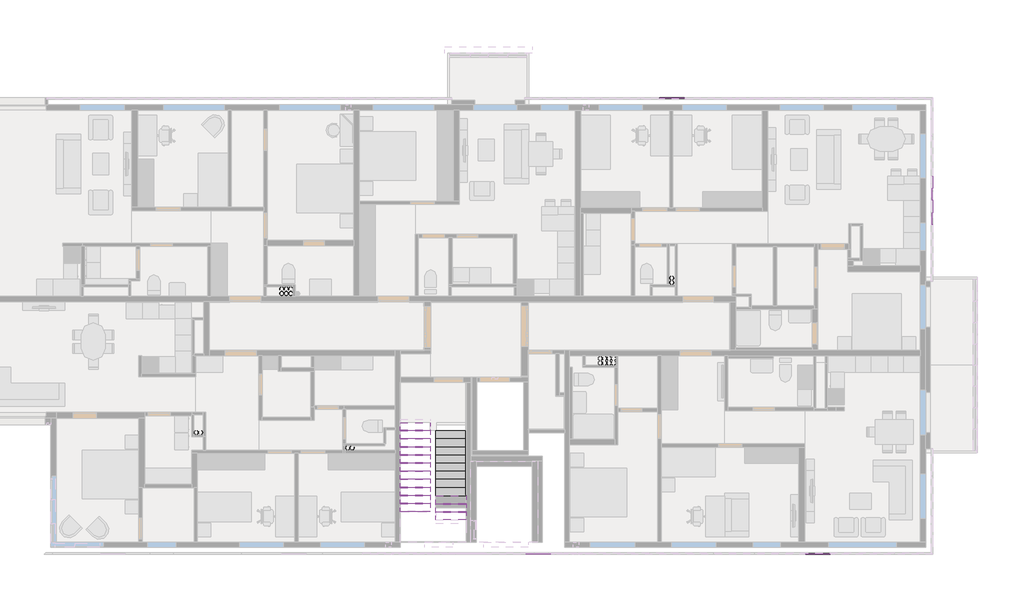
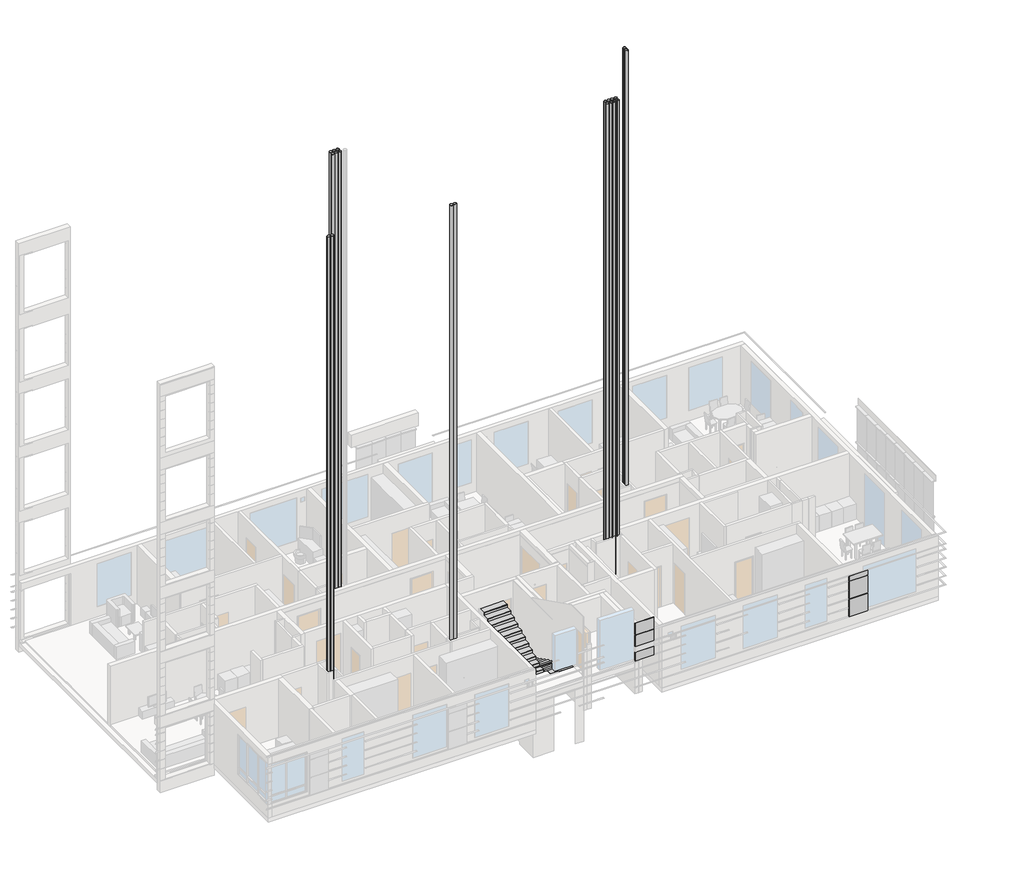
# One storey, part 14 of 14: 77 proxies.
"""IFC4 building model written with IfcOpenShell, lengths in millimetres."""

from ifc_helpers import new_model, si_unit, frame, origin, place, context, project, spatial, polyline, outline, extrude, transform, mapped, element, save
from components import generic_models_2374763e, generic_models_25d82840, generic_models_0ea3a2f0, generic_models_359d7c4d, generic_models_eb6f8b1a, generic_models_d5e938d4, generic_models_b2ea4c5b, generic_models_e5fd676e, d125_8ca146dc

model = new_model("IFC4")

# Units and contexts
model_context = context("Model", 3, world=origin())
ifc_project = project(units=[si_unit("LENGTHUNIT", "METRE", prefix="MILLI")], contexts=[model_context])

# Site, building, storey
site = spatial("IfcSite", under=ifc_project)
building = spatial("IfcBuilding", under=site)
storey = spatial("IfcBuildingStorey", under=building, Name="03_+7,700_Ж", Elevation=4500.0)

# Proxies
placement = place(None, origin())
element("IfcBuildingElementProxy", 1, Name="GM_Отделка : Ступень", ObjectType="GM_Отделка : Ступень", at=placement, inside=storey, context=model_context, shape_type="SweptSolid", body=[
    extrude(outline(polyline([(143230.0000002, 112419.9999987), (143230.0000002, 112719.9999987), (144350.0000002, 112719.9999987), (144350.0000002, 112419.9999987), (143230.0000002, 112419.9999987)])), frame((0.0, 0.0, 6120.0), z_axis=(0.0, 0.0, 1.0), x_axis=(1.0, 0.0, 0.0)), (0.0, 0.0, 1.0), 30.0),
])
element("IfcBuildingElementProxy", 2, Name="GM_Отделка : Ступень", ObjectType="GM_Отделка : Ступень", at=placement, inside=storey, context=model_context, shape_type="SweptSolid", body=[
    extrude(outline(polyline([(143030.0000001, 115719.9999987), (141910.0000001, 115719.9999987), (141910.0000001, 116019.9999987), (143019.9999999, 116019.9999987), (143019.9999999, 115749.9999989), (143030.0000001, 115749.9999989), (143030.0000001, 115719.9999987)])), frame((0.0, 0.0, 7770.0), z_axis=(0.0, 0.0, 1.0), x_axis=(1.0, 0.0, 0.0)), (0.0, 0.0, 1.0), 30.0),
])
generic_models_shape = generic_models_2374763e(model_context)
element("IfcBuildingElementProxy", 3, Name="GM_Панель фасадная : Тип 1", ObjectType="GM_Панель фасадная : Тип 1", at=placement, inside=storey, context=model_context, shape_type="MappedRepresentation", body=[
    mapped(generic_models_shape, transform((152305.0000001, 127924.9999987, 5065.0), x_axis=(1.0, 0.0, 0.0), y_axis=(0.0, 1.0, 0.0), z_axis=(0.0, 0.0, 1.0))),
])
element("IfcBuildingElementProxy", 4, Name="GM_Панель фасадная : Тип 1", ObjectType="GM_Панель фасадная : Тип 1", at=placement, inside=storey, context=model_context, shape_type="MappedRepresentation", body=[
    mapped(generic_models_shape, transform((152305.0000001, 127924.9999987, 5975.0), x_axis=(1.0, 0.0, 0.0), y_axis=(0.0, 1.0, 0.0), z_axis=(0.0, 0.0, 1.0))),
])
element("IfcBuildingElementProxy", 5, Name="GM_Панель фасадная : Тип 1", ObjectType="GM_Панель фасадная : Тип 1", at=placement, inside=storey, context=model_context, shape_type="MappedRepresentation", body=[
    mapped(generic_models_shape, transform((157055.0000001, 111274.9999987, 5065.0), x_axis=(-1.0, 0.0, 0.0), y_axis=(0.0, -1.0, 0.0), z_axis=(0.0, 0.0, 1.0))),
])
element("IfcBuildingElementProxy", 6, Name="GM_Панель фасадная : Тип 1", ObjectType="GM_Панель фасадная : Тип 1", at=placement, inside=storey, context=model_context, shape_type="MappedRepresentation", body=[
    mapped(generic_models_shape, transform((157055.0000001, 111274.9999987, 5975.0), x_axis=(-1.0, 0.0, 0.0), y_axis=(0.0, -1.0, 0.0), z_axis=(0.0, 0.0, 1.0))),
])
element("IfcBuildingElementProxy", 7, Name="GM_Панель фасадная : Тип 1", ObjectType="GM_Панель фасадная : Тип 1", at=placement, inside=storey, context=model_context, shape_type="MappedRepresentation", body=[
    mapped(generic_models_shape, transform((161505.0000001, 123474.9999987, 5975.0), x_axis=(0.0, -1.0, 0.0), y_axis=(1.0, 0.0, 0.0), z_axis=(0.0, 0.0, 1.0))),
])
element("IfcBuildingElementProxy", 8, Name="GM_Панель фасадная : Тип 1", ObjectType="GM_Панель фасадная : Тип 1", at=placement, inside=storey, context=model_context, shape_type="MappedRepresentation", body=[
    mapped(generic_models_shape, transform((161505.0000001, 124374.9999987, 5975.0), x_axis=(0.0, -1.0, 0.0), y_axis=(1.0, 0.0, 0.0), z_axis=(0.0, 0.0, 1.0))),
])
generic_models_2_shape = generic_models_25d82840(model_context)
element("IfcBuildingElementProxy", 9, Name="GM_Панель фасадная : Тип 1", ObjectType="GM_Панель фасадная : Тип 1", at=placement, inside=storey, context=model_context, shape_type="MappedRepresentation", body=[
    mapped(generic_models_2_shape, transform((152305.0000001, 127924.9999987, 6885.0), x_axis=(1.0, 0.0, 0.0), y_axis=(0.0, 1.0, 0.0), z_axis=(0.0, 0.0, 1.0))),
])
element("IfcBuildingElementProxy", 10, Name="GM_Панель фасадная : Тип 1", ObjectType="GM_Панель фасадная : Тип 1", at=placement, inside=storey, context=model_context, shape_type="MappedRepresentation", body=[
    mapped(generic_models_2_shape, transform((157055.0000001, 111274.9999987, 6885.0), x_axis=(-1.0, 0.0, 0.0), y_axis=(0.0, -1.0, 0.0), z_axis=(0.0, 0.0, 1.0))),
])
element("IfcBuildingElementProxy", 11, Name="GM_Панель фасадная : Тип 1", ObjectType="GM_Панель фасадная : Тип 1", at=placement, inside=storey, context=model_context, shape_type="MappedRepresentation", body=[
    mapped(generic_models_2_shape, transform((161505.0000001, 123474.9999987, 6885.0), x_axis=(0.0, -1.0, 0.0), y_axis=(1.0, 0.0, 0.0), z_axis=(0.0, 0.0, 1.0))),
])
element("IfcBuildingElementProxy", 12, Name="GM_Панель фасадная : Тип 1", ObjectType="GM_Панель фасадная : Тип 1", at=placement, inside=storey, context=model_context, shape_type="MappedRepresentation", body=[
    mapped(generic_models_2_shape, transform((161505.0000001, 124374.9999987, 6885.0), x_axis=(0.0, -1.0, 0.0), y_axis=(1.0, 0.0, 0.0), z_axis=(0.0, 0.0, 1.0))),
])
generic_models_3_shape = generic_models_0ea3a2f0(model_context)
element("IfcBuildingElementProxy", 13, Name="GM_Панель фасадная : Тип 1", ObjectType="GM_Панель фасадная : Тип 1", at=placement, inside=storey, context=model_context, shape_type="MappedRepresentation", body=[
    mapped(generic_models_3_shape, transform((146705.0000002, 111274.9999987, 6430.0), x_axis=(-1.0, 0.0, 0.0), y_axis=(0.0, -1.0, 0.0), z_axis=(0.0, 0.0, 1.0))),
])
generic_models_4_shape = generic_models_359d7c4d(model_context)
element("IfcBuildingElementProxy", 14, Name="GM_Панель фасадная : Тип 1", ObjectType="GM_Панель фасадная : Тип 1", at=placement, inside=storey, context=model_context, shape_type="MappedRepresentation", body=[
    mapped(generic_models_4_shape, transform((146705.0000002, 111274.9999987, 7155.0), x_axis=(-1.0, 0.0, 0.0), y_axis=(0.0, -1.0, 0.0), z_axis=(0.0, 0.0, 1.0))),
])
element("IfcBuildingElementProxy", 15, Name="GM_Панель фасадная : Тип 1", ObjectType="GM_Панель фасадная : Тип 1", at=placement, inside=storey, context=model_context, shape_type="MappedRepresentation", body=[
    mapped(generic_models_4_shape, transform((146705.0000002, 111274.9999987, 7760.0), x_axis=(-1.0, 0.0, 0.0), y_axis=(0.0, -1.0, 0.0), z_axis=(0.0, 0.0, 1.0))),
])
generic_models_5_shape = generic_models_eb6f8b1a(model_context)
element("IfcBuildingElementProxy", 16, Name="GM_Отделка : Подступенок", ObjectType="GM_Отделка : Подступенок", at=placement, inside=storey, context=model_context, shape_type="MappedRepresentation", body=[
    mapped(generic_models_5_shape, transform((144202.5000002, 115689.9999987, 4820.0), x_axis=(0.0, 0.0, 1.0), y_axis=(1.0, 0.0, 0.0), z_axis=(0.0, 1.0, 0.0))),
])
element("IfcBuildingElementProxy", 17, Name="GM_Отделка : Подступенок", ObjectType="GM_Отделка : Подступенок", at=placement, inside=storey, context=model_context, shape_type="MappedRepresentation", body=[
    mapped(generic_models_5_shape, transform((144202.5000002, 115389.9999987, 4970.0), x_axis=(0.0, 0.0, 1.0), y_axis=(1.0, 0.0, 0.0), z_axis=(0.0, 1.0, 0.0))),
])
element("IfcBuildingElementProxy", 18, Name="GM_Отделка : Подступенок", ObjectType="GM_Отделка : Подступенок", at=placement, inside=storey, context=model_context, shape_type="MappedRepresentation", body=[
    mapped(generic_models_5_shape, transform((144202.5000002, 115089.9999987, 5120.0), x_axis=(0.0, 0.0, 1.0), y_axis=(1.0, 0.0, 0.0), z_axis=(0.0, 1.0, 0.0))),
])
element("IfcBuildingElementProxy", 19, Name="GM_Отделка : Подступенок", ObjectType="GM_Отделка : Подступенок", at=placement, inside=storey, context=model_context, shape_type="MappedRepresentation", body=[
    mapped(generic_models_5_shape, transform((144202.5000002, 114789.9999987, 5270.0), x_axis=(0.0, 0.0, 1.0), y_axis=(1.0, 0.0, 0.0), z_axis=(0.0, 1.0, 0.0))),
])
element("IfcBuildingElementProxy", 20, Name="GM_Отделка : Подступенок", ObjectType="GM_Отделка : Подступенок", at=placement, inside=storey, context=model_context, shape_type="MappedRepresentation", body=[
    mapped(generic_models_5_shape, transform((144202.5000002, 114489.9999987, 5420.0), x_axis=(0.0, 0.0, 1.0), y_axis=(1.0, 0.0, 0.0), z_axis=(0.0, 1.0, 0.0))),
])
element("IfcBuildingElementProxy", 21, Name="GM_Отделка : Подступенок", ObjectType="GM_Отделка : Подступенок", at=placement, inside=storey, context=model_context, shape_type="MappedRepresentation", body=[
    mapped(generic_models_5_shape, transform((144202.5000002, 114189.9999987, 5570.0), x_axis=(0.0, 0.0, 1.0), y_axis=(1.0, 0.0, 0.0), z_axis=(0.0, 1.0, 0.0))),
])
element("IfcBuildingElementProxy", 22, Name="GM_Отделка : Подступенок", ObjectType="GM_Отделка : Подступенок", at=placement, inside=storey, context=model_context, shape_type="MappedRepresentation", body=[
    mapped(generic_models_5_shape, transform((144202.5000002, 113889.9999987, 5720.0), x_axis=(0.0, 0.0, 1.0), y_axis=(1.0, 0.0, 0.0), z_axis=(0.0, 1.0, 0.0))),
])
element("IfcBuildingElementProxy", 23, Name="GM_Отделка : Подступенок", ObjectType="GM_Отделка : Подступенок", at=placement, inside=storey, context=model_context, shape_type="MappedRepresentation", body=[
    mapped(generic_models_5_shape, transform((144202.5000002, 113589.9999987, 5870.0), x_axis=(0.0, 0.0, 1.0), y_axis=(1.0, 0.0, 0.0), z_axis=(0.0, 1.0, 0.0))),
])
element("IfcBuildingElementProxy", 24, Name="GM_Отделка : Подступенок", ObjectType="GM_Отделка : Подступенок", at=placement, inside=storey, context=model_context, shape_type="MappedRepresentation", body=[
    mapped(generic_models_5_shape, transform((144202.5000002, 113289.9999987, 6020.0), x_axis=(0.0, 0.0, 1.0), y_axis=(1.0, 0.0, 0.0), z_axis=(0.0, 1.0, 0.0))),
])
element("IfcBuildingElementProxy", 25, Name="GM_Отделка : Подступенок", ObjectType="GM_Отделка : Подступенок", at=placement, inside=storey, context=model_context, shape_type="MappedRepresentation", body=[
    mapped(generic_models_5_shape, transform((144202.5000002, 112989.9999987, 6170.0), x_axis=(0.0, 0.0, 1.0), y_axis=(1.0, 0.0, 0.0), z_axis=(0.0, 1.0, 0.0))),
])
element("IfcBuildingElementProxy", 26, Name="GM_Отделка : Подступенок", ObjectType="GM_Отделка : Подступенок", at=placement, inside=storey, context=model_context, shape_type="MappedRepresentation", body=[
    mapped(generic_models_5_shape, transform((144202.5000002, 112689.9999987, 6320.0), x_axis=(0.0, 0.0, 1.0), y_axis=(1.0, 0.0, 0.0), z_axis=(0.0, 1.0, 0.0))),
])
generic_models_6_shape = generic_models_d5e938d4(model_context)
element("IfcBuildingElementProxy", 27, Name="GM_Отделка : Подступенок", ObjectType="GM_Отделка : Подступенок", at=placement, inside=storey, context=model_context, shape_type="MappedRepresentation", body=[
    mapped(generic_models_6_shape, transform((142882.5000001, 112749.9999987, 6470.0), x_axis=(0.0, 0.0, 1.0), y_axis=(-1.0, 0.0, 0.0), z_axis=(0.0, -1.0, 0.0))),
])
element("IfcBuildingElementProxy", 28, Name="GM_Отделка : Подступенок", ObjectType="GM_Отделка : Подступенок", at=placement, inside=storey, context=model_context, shape_type="MappedRepresentation", body=[
    mapped(generic_models_6_shape, transform((142882.5000001, 113049.9999987, 6620.0), x_axis=(0.0, 0.0, 1.0), y_axis=(-1.0, 0.0, 0.0), z_axis=(0.0, -1.0, 0.0))),
])
element("IfcBuildingElementProxy", 29, Name="GM_Отделка : Подступенок", ObjectType="GM_Отделка : Подступенок", at=placement, inside=storey, context=model_context, shape_type="MappedRepresentation", body=[
    mapped(generic_models_6_shape, transform((142882.5000001, 113349.9999987, 6770.0), x_axis=(0.0, 0.0, 1.0), y_axis=(-1.0, 0.0, 0.0), z_axis=(0.0, -1.0, 0.0))),
])
element("IfcBuildingElementProxy", 30, Name="GM_Отделка : Подступенок", ObjectType="GM_Отделка : Подступенок", at=placement, inside=storey, context=model_context, shape_type="MappedRepresentation", body=[
    mapped(generic_models_6_shape, transform((142882.5000001, 113649.9999987, 6920.0), x_axis=(0.0, 0.0, 1.0), y_axis=(-1.0, 0.0, 0.0), z_axis=(0.0, -1.0, 0.0))),
])
element("IfcBuildingElementProxy", 31, Name="GM_Отделка : Подступенок", ObjectType="GM_Отделка : Подступенок", at=placement, inside=storey, context=model_context, shape_type="MappedRepresentation", body=[
    mapped(generic_models_6_shape, transform((142882.5000001, 113949.9999987, 7070.0), x_axis=(0.0, 0.0, 1.0), y_axis=(-1.0, 0.0, 0.0), z_axis=(0.0, -1.0, 0.0))),
])
element("IfcBuildingElementProxy", 32, Name="GM_Отделка : Подступенок", ObjectType="GM_Отделка : Подступенок", at=placement, inside=storey, context=model_context, shape_type="MappedRepresentation", body=[
    mapped(generic_models_6_shape, transform((142882.5000001, 114249.9999987, 7220.0), x_axis=(0.0, 0.0, 1.0), y_axis=(-1.0, 0.0, 0.0), z_axis=(0.0, -1.0, 0.0))),
])
element("IfcBuildingElementProxy", 33, Name="GM_Отделка : Подступенок", ObjectType="GM_Отделка : Подступенок", at=placement, inside=storey, context=model_context, shape_type="MappedRepresentation", body=[
    mapped(generic_models_6_shape, transform((142882.5000001, 114549.9999987, 7370.0), x_axis=(0.0, 0.0, 1.0), y_axis=(-1.0, 0.0, 0.0), z_axis=(0.0, -1.0, 0.0))),
])
element("IfcBuildingElementProxy", 34, Name="GM_Отделка : Подступенок", ObjectType="GM_Отделка : Подступенок", at=placement, inside=storey, context=model_context, shape_type="MappedRepresentation", body=[
    mapped(generic_models_6_shape, transform((142882.5000001, 114849.9999987, 7520.0), x_axis=(0.0, 0.0, 1.0), y_axis=(-1.0, 0.0, 0.0), z_axis=(0.0, -1.0, 0.0))),
])
element("IfcBuildingElementProxy", 35, Name="GM_Отделка : Подступенок", ObjectType="GM_Отделка : Подступенок", at=placement, inside=storey, context=model_context, shape_type="MappedRepresentation", body=[
    mapped(generic_models_6_shape, transform((142882.5000001, 115149.9999987, 7670.0), x_axis=(0.0, 0.0, 1.0), y_axis=(-1.0, 0.0, 0.0), z_axis=(0.0, -1.0, 0.0))),
])
element("IfcBuildingElementProxy", 36, Name="GM_Отделка : Подступенок", ObjectType="GM_Отделка : Подступенок", at=placement, inside=storey, context=model_context, shape_type="MappedRepresentation", body=[
    mapped(generic_models_6_shape, transform((142882.5000001, 115449.9999987, 7820.0), x_axis=(0.0, 0.0, 1.0), y_axis=(-1.0, 0.0, 0.0), z_axis=(0.0, -1.0, 0.0))),
])
element("IfcBuildingElementProxy", 37, Name="GM_Отделка : Подступенок", ObjectType="GM_Отделка : Подступенок", at=placement, inside=storey, context=model_context, shape_type="MappedRepresentation", body=[
    mapped(generic_models_6_shape, transform((142882.5000001, 115749.9999987, 7970.0), x_axis=(0.0, 0.0, 1.0), y_axis=(-1.0, 0.0, 0.0), z_axis=(0.0, -1.0, 0.0))),
])
generic_models_7_shape = generic_models_b2ea4c5b(model_context)
element("IfcBuildingElementProxy", 38, Name="GM_Отделка : Ступень", ObjectType="GM_Отделка : Ступень", at=placement, inside=storey, context=model_context, shape_type="MappedRepresentation", body=[
    mapped(generic_models_7_shape, transform((144202.5000002, 115369.9999987, 4620.0), x_axis=(0.0, -1.0, 0.0), y_axis=(1.0, 0.0, 0.0), z_axis=(0.0, 0.0, 1.0))),
])
element("IfcBuildingElementProxy", 39, Name="GM_Отделка : Ступень", ObjectType="GM_Отделка : Ступень", at=placement, inside=storey, context=model_context, shape_type="MappedRepresentation", body=[
    mapped(generic_models_7_shape, transform((144202.5000002, 115069.9999987, 4770.0), x_axis=(0.0, -1.0, 0.0), y_axis=(1.0, 0.0, 0.0), z_axis=(0.0, 0.0, 1.0))),
])
element("IfcBuildingElementProxy", 40, Name="GM_Отделка : Ступень", ObjectType="GM_Отделка : Ступень", at=placement, inside=storey, context=model_context, shape_type="MappedRepresentation", body=[
    mapped(generic_models_7_shape, transform((144202.5000002, 114769.9999987, 4920.0), x_axis=(0.0, -1.0, 0.0), y_axis=(1.0, 0.0, 0.0), z_axis=(0.0, 0.0, 1.0))),
])
element("IfcBuildingElementProxy", 41, Name="GM_Отделка : Ступень", ObjectType="GM_Отделка : Ступень", at=placement, inside=storey, context=model_context, shape_type="MappedRepresentation", body=[
    mapped(generic_models_7_shape, transform((144202.5000002, 114469.9999987, 5070.0), x_axis=(0.0, -1.0, 0.0), y_axis=(1.0, 0.0, 0.0), z_axis=(0.0, 0.0, 1.0))),
])
element("IfcBuildingElementProxy", 42, Name="GM_Отделка : Ступень", ObjectType="GM_Отделка : Ступень", at=placement, inside=storey, context=model_context, shape_type="MappedRepresentation", body=[
    mapped(generic_models_7_shape, transform((144202.5000002, 114169.9999987, 5220.0), x_axis=(0.0, -1.0, 0.0), y_axis=(1.0, 0.0, 0.0), z_axis=(0.0, 0.0, 1.0))),
])
element("IfcBuildingElementProxy", 43, Name="GM_Отделка : Ступень", ObjectType="GM_Отделка : Ступень", at=placement, inside=storey, context=model_context, shape_type="MappedRepresentation", body=[
    mapped(generic_models_7_shape, transform((144202.5000002, 113869.9999987, 5370.0), x_axis=(0.0, -1.0, 0.0), y_axis=(1.0, 0.0, 0.0), z_axis=(0.0, 0.0, 1.0))),
])
element("IfcBuildingElementProxy", 44, Name="GM_Отделка : Ступень", ObjectType="GM_Отделка : Ступень", at=placement, inside=storey, context=model_context, shape_type="MappedRepresentation", body=[
    mapped(generic_models_7_shape, transform((144202.5000002, 113569.9999987, 5520.0), x_axis=(0.0, -1.0, 0.0), y_axis=(1.0, 0.0, 0.0), z_axis=(0.0, 0.0, 1.0))),
])
element("IfcBuildingElementProxy", 45, Name="GM_Отделка : Ступень", ObjectType="GM_Отделка : Ступень", at=placement, inside=storey, context=model_context, shape_type="MappedRepresentation", body=[
    mapped(generic_models_7_shape, transform((144202.5000002, 113269.9999987, 5670.0), x_axis=(0.0, -1.0, 0.0), y_axis=(1.0, 0.0, 0.0), z_axis=(0.0, 0.0, 1.0))),
])
element("IfcBuildingElementProxy", 46, Name="GM_Отделка : Ступень", ObjectType="GM_Отделка : Ступень", at=placement, inside=storey, context=model_context, shape_type="MappedRepresentation", body=[
    mapped(generic_models_7_shape, transform((144202.5000002, 112969.9999987, 5820.0), x_axis=(0.0, -1.0, 0.0), y_axis=(1.0, 0.0, 0.0), z_axis=(0.0, 0.0, 1.0))),
])
element("IfcBuildingElementProxy", 47, Name="GM_Отделка : Ступень", ObjectType="GM_Отделка : Ступень", at=placement, inside=storey, context=model_context, shape_type="MappedRepresentation", body=[
    mapped(generic_models_7_shape, transform((144202.5000002, 112669.9999987, 5970.0), x_axis=(0.0, -1.0, 0.0), y_axis=(1.0, 0.0, 0.0), z_axis=(0.0, 0.0, 1.0))),
])
generic_models_8_shape = generic_models_e5fd676e(model_context)
element("IfcBuildingElementProxy", 48, Name="GM_Отделка : Ступень", ObjectType="GM_Отделка : Ступень", at=placement, inside=storey, context=model_context, shape_type="MappedRepresentation", body=[
    mapped(generic_models_8_shape, transform((142882.5000001, 113069.9999987, 6270.0), x_axis=(0.0, 1.0, 0.0), y_axis=(-1.0, 0.0, 0.0), z_axis=(0.0, 0.0, 1.0))),
])
element("IfcBuildingElementProxy", 49, Name="GM_Отделка : Ступень", ObjectType="GM_Отделка : Ступень", at=placement, inside=storey, context=model_context, shape_type="MappedRepresentation", body=[
    mapped(generic_models_8_shape, transform((142882.5000001, 113369.9999987, 6420.0), x_axis=(0.0, 1.0, 0.0), y_axis=(-1.0, 0.0, 0.0), z_axis=(0.0, 0.0, 1.0))),
])
element("IfcBuildingElementProxy", 50, Name="GM_Отделка : Ступень", ObjectType="GM_Отделка : Ступень", at=placement, inside=storey, context=model_context, shape_type="MappedRepresentation", body=[
    mapped(generic_models_8_shape, transform((142882.5000001, 113669.9999987, 6570.0), x_axis=(0.0, 1.0, 0.0), y_axis=(-1.0, 0.0, 0.0), z_axis=(0.0, 0.0, 1.0))),
])
element("IfcBuildingElementProxy", 51, Name="GM_Отделка : Ступень", ObjectType="GM_Отделка : Ступень", at=placement, inside=storey, context=model_context, shape_type="MappedRepresentation", body=[
    mapped(generic_models_8_shape, transform((142882.5000001, 113969.9999987, 6720.0), x_axis=(0.0, 1.0, 0.0), y_axis=(-1.0, 0.0, 0.0), z_axis=(0.0, 0.0, 1.0))),
])
element("IfcBuildingElementProxy", 52, Name="GM_Отделка : Ступень", ObjectType="GM_Отделка : Ступень", at=placement, inside=storey, context=model_context, shape_type="MappedRepresentation", body=[
    mapped(generic_models_8_shape, transform((142882.5000001, 114269.9999987, 6870.0), x_axis=(0.0, 1.0, 0.0), y_axis=(-1.0, 0.0, 0.0), z_axis=(0.0, 0.0, 1.0))),
])
element("IfcBuildingElementProxy", 53, Name="GM_Отделка : Ступень", ObjectType="GM_Отделка : Ступень", at=placement, inside=storey, context=model_context, shape_type="MappedRepresentation", body=[
    mapped(generic_models_8_shape, transform((142882.5000001, 114569.9999987, 7020.0), x_axis=(0.0, 1.0, 0.0), y_axis=(-1.0, 0.0, 0.0), z_axis=(0.0, 0.0, 1.0))),
])
element("IfcBuildingElementProxy", 54, Name="GM_Отделка : Ступень", ObjectType="GM_Отделка : Ступень", at=placement, inside=storey, context=model_context, shape_type="MappedRepresentation", body=[
    mapped(generic_models_8_shape, transform((142882.5000001, 114869.9999987, 7170.0), x_axis=(0.0, 1.0, 0.0), y_axis=(-1.0, 0.0, 0.0), z_axis=(0.0, 0.0, 1.0))),
])
element("IfcBuildingElementProxy", 55, Name="GM_Отделка : Ступень", ObjectType="GM_Отделка : Ступень", at=placement, inside=storey, context=model_context, shape_type="MappedRepresentation", body=[
    mapped(generic_models_8_shape, transform((142882.5000001, 115169.9999987, 7320.0), x_axis=(0.0, 1.0, 0.0), y_axis=(-1.0, 0.0, 0.0), z_axis=(0.0, 0.0, 1.0))),
])
element("IfcBuildingElementProxy", 56, Name="GM_Отделка : Ступень", ObjectType="GM_Отделка : Ступень", at=placement, inside=storey, context=model_context, shape_type="MappedRepresentation", body=[
    mapped(generic_models_8_shape, transform((142882.5000001, 115469.9999987, 7470.0), x_axis=(0.0, 1.0, 0.0), y_axis=(-1.0, 0.0, 0.0), z_axis=(0.0, 0.0, 1.0))),
])
element("IfcBuildingElementProxy", 57, Name="GM_Отделка : Ступень", ObjectType="GM_Отделка : Ступень", at=placement, inside=storey, context=model_context, shape_type="MappedRepresentation", body=[
    mapped(generic_models_8_shape, transform((142882.5000001, 115769.9999987, 7620.0), x_axis=(0.0, 1.0, 0.0), y_axis=(-1.0, 0.0, 0.0), z_axis=(0.0, 0.0, 1.0))),
])
d125_shape = d125_8ca146dc(model_context)
element("IfcBuildingElementProxy", 58, Name="GM_Вентканал_О : D125", ObjectType="GM_Вентканал_О : D125", at=placement, inside=storey, context=model_context, shape_type="MappedRepresentation", body=[
    mapped(d125_shape, transform((149647.5000001, 118232.4999987, 0.0), x_axis=(1.0, 0.0, 0.0), y_axis=(0.0, 1.0, 0.0), z_axis=(0.0, 0.0, 1.0))),
])
element("IfcBuildingElementProxy", 59, Name="GM_Вентканал_О : D125", ObjectType="GM_Вентканал_О : D125", at=placement, inside=storey, context=model_context, shape_type="MappedRepresentation", body=[
    mapped(d125_shape, transform((149647.5000001, 118397.4999987, 0.0), x_axis=(1.0, 0.0, 0.0), y_axis=(0.0, 1.0, 0.0), z_axis=(0.0, 0.0, 1.0))),
])
element("IfcBuildingElementProxy", 60, Name="GM_Вентканал_О : D125", ObjectType="GM_Вентканал_О : D125", at=placement, inside=storey, context=model_context, shape_type="MappedRepresentation", body=[
    mapped(d125_shape, transform((149482.5000001, 118232.4999987, 0.0), x_axis=(1.0, 0.0, 0.0), y_axis=(0.0, 1.0, 0.0), z_axis=(0.0, 0.0, 1.0))),
])
element("IfcBuildingElementProxy", 61, Name="GM_Вентканал_О : D125", ObjectType="GM_Вентканал_О : D125", at=placement, inside=storey, context=model_context, shape_type="MappedRepresentation", body=[
    mapped(d125_shape, transform((149482.5000001, 118397.4999987, 0.0), x_axis=(1.0, 0.0, 0.0), y_axis=(0.0, 1.0, 0.0), z_axis=(0.0, 0.0, 1.0))),
])
element("IfcBuildingElementProxy", 62, Name="GM_Вентканал_О : D125", ObjectType="GM_Вентканал_О : D125", at=placement, inside=storey, context=model_context, shape_type="MappedRepresentation", body=[
    mapped(d125_shape, transform((149317.5000001, 118232.4999987, 0.0), x_axis=(1.0, 0.0, 0.0), y_axis=(0.0, 1.0, 0.0), z_axis=(0.0, 0.0, 1.0))),
])
element("IfcBuildingElementProxy", 63, Name="GM_Вентканал_О : D125", ObjectType="GM_Вентканал_О : D125", at=placement, inside=storey, context=model_context, shape_type="MappedRepresentation", body=[
    mapped(d125_shape, transform((149317.5000001, 118397.4999987, 0.0), x_axis=(1.0, 0.0, 0.0), y_axis=(0.0, 1.0, 0.0), z_axis=(0.0, 0.0, 1.0))),
])
element("IfcBuildingElementProxy", 64, Name="GM_Вентканал_О : D125", ObjectType="GM_Вентканал_О : D125", at=placement, inside=storey, context=model_context, shape_type="MappedRepresentation", body=[
    mapped(d125_shape, transform((151967.5000001, 121212.4999987, 0.0), x_axis=(1.0, 0.0, 0.0), y_axis=(0.0, 1.0, 0.0), z_axis=(0.0, 0.0, 1.0))),
])
element("IfcBuildingElementProxy", 65, Name="GM_Вентканал_О : D125", ObjectType="GM_Вентканал_О : D125", at=placement, inside=storey, context=model_context, shape_type="MappedRepresentation", body=[
    mapped(d125_shape, transform((151967.5000001, 121377.4999987, 0.0), x_axis=(1.0, 0.0, 0.0), y_axis=(0.0, 1.0, 0.0), z_axis=(0.0, 0.0, 1.0))),
])
element("IfcBuildingElementProxy", 66, Name="GM_Вентканал_О : D125", ObjectType="GM_Вентканал_О : D125", at=placement, inside=storey, context=model_context, shape_type="MappedRepresentation", body=[
    mapped(d125_shape, transform((134357.5000001, 115657.4999987, 0.0), x_axis=(1.0, 0.0, 0.0), y_axis=(0.0, 1.0, 0.0), z_axis=(0.0, 0.0, 1.0))),
])
element("IfcBuildingElementProxy", 67, Name="GM_Вентканал_О : D125", ObjectType="GM_Вентканал_О : D125", at=placement, inside=storey, context=model_context, shape_type="MappedRepresentation", body=[
    mapped(d125_shape, transform((139967.5000001, 115087.4999987, 0.0), x_axis=(1.0, 0.0, 0.0), y_axis=(0.0, 1.0, 0.0), z_axis=(0.0, 0.0, 1.0))),
])
element("IfcBuildingElementProxy", 68, Name="GM_Вентканал_О : D125", ObjectType="GM_Вентканал_О : D125", at=placement, inside=storey, context=model_context, shape_type="MappedRepresentation", body=[
    mapped(d125_shape, transform((140132.5000001, 115087.4999987, 0.0), x_axis=(1.0, 0.0, 0.0), y_axis=(0.0, 1.0, 0.0), z_axis=(0.0, 0.0, 1.0))),
])
element("IfcBuildingElementProxy", 69, Name="GM_Вентканал_О : D125", ObjectType="GM_Вентканал_О : D125", at=placement, inside=storey, context=model_context, shape_type="MappedRepresentation", body=[
    mapped(d125_shape, transform((149812.5000001, 118232.4999987, 0.0), x_axis=(1.0, 0.0, 0.0), y_axis=(0.0, 1.0, 0.0), z_axis=(0.0, 0.0, 1.0))),
])
element("IfcBuildingElementProxy", 70, Name="GM_Вентканал_О : D125", ObjectType="GM_Вентканал_О : D125", at=placement, inside=storey, context=model_context, shape_type="MappedRepresentation", body=[
    mapped(d125_shape, transform((149812.5000001, 118397.4999987, 0.0), x_axis=(1.0, 0.0, 0.0), y_axis=(0.0, 1.0, 0.0), z_axis=(0.0, 0.0, 1.0))),
])
element("IfcBuildingElementProxy", 71, Name="GM_Вентканал_О : D125", ObjectType="GM_Вентканал_О : D125", at=placement, inside=storey, context=model_context, shape_type="MappedRepresentation", body=[
    mapped(d125_shape, transform((137527.5000001, 120967.4999987, 0.0), x_axis=(1.0, 0.0, 0.0), y_axis=(0.0, 1.0, 0.0), z_axis=(0.0, 0.0, 1.0))),
])
element("IfcBuildingElementProxy", 72, Name="GM_Вентканал_О : D125", ObjectType="GM_Вентканал_О : D125", at=placement, inside=storey, context=model_context, shape_type="MappedRepresentation", body=[
    mapped(d125_shape, transform((137692.5000001, 120967.4999987, 0.0), x_axis=(1.0, 0.0, 0.0), y_axis=(0.0, 1.0, 0.0), z_axis=(0.0, 0.0, 1.0))),
])
element("IfcBuildingElementProxy", 73, Name="GM_Вентканал_О : D125", ObjectType="GM_Вентканал_О : D125", at=placement, inside=storey, context=model_context, shape_type="MappedRepresentation", body=[
    mapped(d125_shape, transform((137857.5000001, 120967.4999987, 0.0), x_axis=(1.0, 0.0, 0.0), y_axis=(0.0, 1.0, 0.0), z_axis=(0.0, 0.0, 1.0))),
])
element("IfcBuildingElementProxy", 74, Name="GM_Вентканал_О : D125", ObjectType="GM_Вентканал_О : D125", at=placement, inside=storey, context=model_context, shape_type="MappedRepresentation", body=[
    mapped(d125_shape, transform((137527.5000001, 120802.4999987, 0.0), x_axis=(1.0, 0.0, 0.0), y_axis=(0.0, 1.0, 0.0), z_axis=(0.0, 0.0, 1.0))),
])
element("IfcBuildingElementProxy", 75, Name="GM_Вентканал_О : D125", ObjectType="GM_Вентканал_О : D125", at=placement, inside=storey, context=model_context, shape_type="MappedRepresentation", body=[
    mapped(d125_shape, transform((137692.5000001, 120802.4999987, 0.0), x_axis=(1.0, 0.0, 0.0), y_axis=(0.0, 1.0, 0.0), z_axis=(0.0, 0.0, 1.0))),
])
element("IfcBuildingElementProxy", 76, Name="GM_Вентканал_О : D125", ObjectType="GM_Вентканал_О : D125", at=placement, inside=storey, context=model_context, shape_type="MappedRepresentation", body=[
    mapped(d125_shape, transform((137857.5000001, 120802.4999987, 0.0), x_axis=(1.0, 0.0, 0.0), y_axis=(0.0, 1.0, 0.0), z_axis=(0.0, 0.0, 1.0))),
])
element("IfcBuildingElementProxy", 77, Name="GM_Вентканал_О : D125", ObjectType="GM_Вентканал_О : D125", at=placement, inside=storey, context=model_context, shape_type="MappedRepresentation", body=[
    mapped(d125_shape, transform((134522.5000001, 115657.4999987, 0.0), x_axis=(1.0, 0.0, 0.0), y_axis=(0.0, 1.0, 0.0), z_axis=(0.0, 0.0, 1.0))),
])

save(model, "model.ifc")
